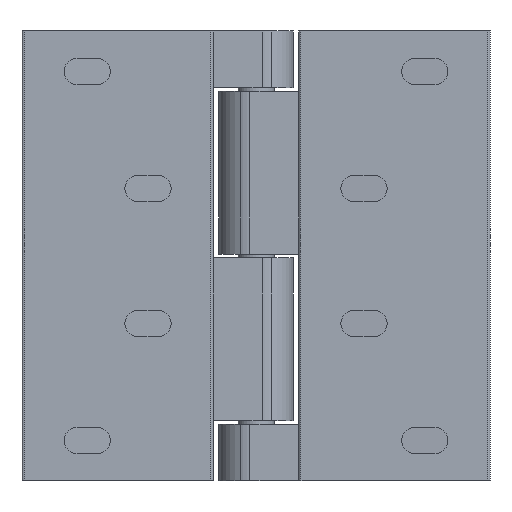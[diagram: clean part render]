
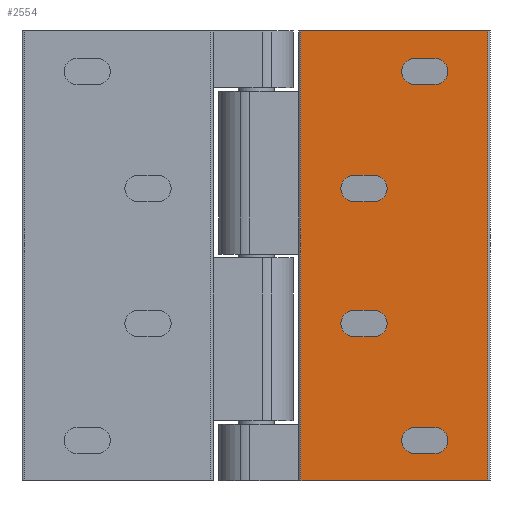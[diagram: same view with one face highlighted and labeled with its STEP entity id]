
A CAD part, front view. The second image highlights one B-rep face of the part: STEP entity #2554.
In plain terms, the highlighted planar face has unit normal (0, -1, 0).
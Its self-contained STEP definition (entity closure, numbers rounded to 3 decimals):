
#155=LINE('',#4096,#409);
#183=LINE('',#4191,#437);
#184=LINE('',#4195,#438);
#185=LINE('',#4200,#439);
#186=LINE('',#4203,#440);
#187=LINE('',#4208,#441);
#188=LINE('',#4211,#442);
#189=LINE('',#4216,#443);
#190=LINE('',#4219,#444);
#191=LINE('',#4224,#445);
#192=LINE('',#4227,#446);
#193=LINE('',#4229,#447);
#409=VECTOR('',#3291,1000.);
#437=VECTOR('',#3383,1000.);
#438=VECTOR('',#3388,1000.);
#439=VECTOR('',#3391,1000.);
#440=VECTOR('',#3394,1000.);
#441=VECTOR('',#3397,1000.);
#442=VECTOR('',#3400,1000.);
#443=VECTOR('',#3403,1000.);
#444=VECTOR('',#3406,1000.);
#445=VECTOR('',#3409,1000.);
#446=VECTOR('',#3412,1000.);
#447=VECTOR('',#3413,1000.);
#602=PLANE('',#2816);
#995=ORIENTED_EDGE('',*,*,#1620,.F.);
#996=ORIENTED_EDGE('',*,*,#1621,.F.);
#997=ORIENTED_EDGE('',*,*,#1622,.F.);
#998=ORIENTED_EDGE('',*,*,#1623,.F.);
#999=ORIENTED_EDGE('',*,*,#1624,.F.);
#1000=ORIENTED_EDGE('',*,*,#1625,.F.);
#1001=ORIENTED_EDGE('',*,*,#1626,.F.);
#1002=ORIENTED_EDGE('',*,*,#1627,.F.);
#1003=ORIENTED_EDGE('',*,*,#1628,.F.);
#1004=ORIENTED_EDGE('',*,*,#1629,.F.);
#1005=ORIENTED_EDGE('',*,*,#1630,.F.);
#1006=ORIENTED_EDGE('',*,*,#1631,.F.);
#1007=ORIENTED_EDGE('',*,*,#1632,.F.);
#1008=ORIENTED_EDGE('',*,*,#1633,.F.);
#1009=ORIENTED_EDGE('',*,*,#1634,.F.);
#1010=ORIENTED_EDGE('',*,*,#1635,.F.);
#1011=ORIENTED_EDGE('',*,*,#1570,.T.);
#1012=ORIENTED_EDGE('',*,*,#1636,.F.);
#1013=ORIENTED_EDGE('',*,*,#1637,.F.);
#1014=ORIENTED_EDGE('',*,*,#1618,.T.);
#1570=EDGE_CURVE('',#1902,#1901,#155,.T.);
#1618=EDGE_CURVE('',#1937,#1902,#183,.T.);
#1620=EDGE_CURVE('',#1938,#1939,#184,.T.);
#1621=EDGE_CURVE('',#1940,#1938,#2070,.F.);
#1622=EDGE_CURVE('',#1941,#1940,#185,.T.);
#1623=EDGE_CURVE('',#1939,#1941,#2071,.F.);
#1624=EDGE_CURVE('',#1942,#1943,#186,.T.);
#1625=EDGE_CURVE('',#1944,#1942,#2072,.F.);
#1626=EDGE_CURVE('',#1945,#1944,#187,.T.);
#1627=EDGE_CURVE('',#1943,#1945,#2073,.F.);
#1628=EDGE_CURVE('',#1946,#1947,#188,.T.);
#1629=EDGE_CURVE('',#1948,#1946,#2074,.F.);
#1630=EDGE_CURVE('',#1949,#1948,#189,.T.);
#1631=EDGE_CURVE('',#1947,#1949,#2075,.F.);
#1632=EDGE_CURVE('',#1950,#1951,#190,.T.);
#1633=EDGE_CURVE('',#1952,#1950,#2076,.F.);
#1634=EDGE_CURVE('',#1953,#1952,#191,.T.);
#1635=EDGE_CURVE('',#1951,#1953,#2077,.F.);
#1636=EDGE_CURVE('',#1954,#1901,#192,.T.);
#1637=EDGE_CURVE('',#1937,#1954,#193,.T.);
#1901=VERTEX_POINT('',#4095);
#1902=VERTEX_POINT('',#4097);
#1937=VERTEX_POINT('',#4192);
#1938=VERTEX_POINT('',#4196);
#1939=VERTEX_POINT('',#4197);
#1940=VERTEX_POINT('',#4199);
#1941=VERTEX_POINT('',#4201);
#1942=VERTEX_POINT('',#4204);
#1943=VERTEX_POINT('',#4205);
#1944=VERTEX_POINT('',#4207);
#1945=VERTEX_POINT('',#4209);
#1946=VERTEX_POINT('',#4212);
#1947=VERTEX_POINT('',#4213);
#1948=VERTEX_POINT('',#4215);
#1949=VERTEX_POINT('',#4217);
#1950=VERTEX_POINT('',#4220);
#1951=VERTEX_POINT('',#4221);
#1952=VERTEX_POINT('',#4223);
#1953=VERTEX_POINT('',#4225);
#1954=VERTEX_POINT('',#4228);
#2070=CIRCLE('',#2817,2.9);
#2071=CIRCLE('',#2818,2.9);
#2072=CIRCLE('',#2819,2.9);
#2073=CIRCLE('',#2820,2.9);
#2074=CIRCLE('',#2821,2.9);
#2075=CIRCLE('',#2822,2.9);
#2076=CIRCLE('',#2823,2.9);
#2077=CIRCLE('',#2824,2.9);
#2181=EDGE_LOOP('',(#995,#996,#997,#998));
#2182=EDGE_LOOP('',(#999,#1000,#1001,#1002));
#2183=EDGE_LOOP('',(#1003,#1004,#1005,#1006));
#2184=EDGE_LOOP('',(#1007,#1008,#1009,#1010));
#2185=EDGE_LOOP('',(#1011,#1012,#1013,#1014));
#2347=FACE_BOUND('',#2181,.T.);
#2348=FACE_BOUND('',#2182,.T.);
#2349=FACE_BOUND('',#2183,.T.);
#2350=FACE_BOUND('',#2184,.T.);
#2351=FACE_BOUND('',#2185,.T.);
#2554=ADVANCED_FACE('',(#2347,#2348,#2349,#2350,#2351),#602,.F.);
#2816=AXIS2_PLACEMENT_3D('',#4194,#3386,#3387);
#2817=AXIS2_PLACEMENT_3D('',#4198,#3389,#3390);
#2818=AXIS2_PLACEMENT_3D('',#4202,#3392,#3393);
#2819=AXIS2_PLACEMENT_3D('',#4206,#3395,#3396);
#2820=AXIS2_PLACEMENT_3D('',#4210,#3398,#3399);
#2821=AXIS2_PLACEMENT_3D('',#4214,#3401,#3402);
#2822=AXIS2_PLACEMENT_3D('',#4218,#3404,#3405);
#2823=AXIS2_PLACEMENT_3D('',#4222,#3407,#3408);
#2824=AXIS2_PLACEMENT_3D('',#4226,#3410,#3411);
#3291=DIRECTION('',(1.,0.,0.));
#3383=DIRECTION('',(0.,0.,-1.));
#3386=DIRECTION('',(0.,1.,0.));
#3387=DIRECTION('',(0.,0.,1.));
#3388=DIRECTION('',(1.,0.,0.));
#3389=DIRECTION('',(0.,1.,0.));
#3390=DIRECTION('',(0.,0.,1.));
#3391=DIRECTION('',(-1.,0.,0.));
#3392=DIRECTION('',(0.,1.,0.));
#3393=DIRECTION('',(0.,0.,1.));
#3394=DIRECTION('',(1.,0.,0.));
#3395=DIRECTION('',(0.,1.,0.));
#3396=DIRECTION('',(0.,0.,1.));
#3397=DIRECTION('',(-1.,0.,0.));
#3398=DIRECTION('',(0.,1.,0.));
#3399=DIRECTION('',(0.,0.,1.));
#3400=DIRECTION('',(1.,0.,0.));
#3401=DIRECTION('',(0.,1.,0.));
#3402=DIRECTION('',(0.,0.,1.));
#3403=DIRECTION('',(-1.,0.,0.));
#3404=DIRECTION('',(0.,1.,0.));
#3405=DIRECTION('',(0.,0.,1.));
#3406=DIRECTION('',(1.,0.,0.));
#3407=DIRECTION('',(0.,1.,0.));
#3408=DIRECTION('',(0.,0.,1.));
#3409=DIRECTION('',(-1.,0.,0.));
#3410=DIRECTION('',(0.,1.,0.));
#3411=DIRECTION('',(0.,0.,1.));
#3412=DIRECTION('',(0.,0.,-1.));
#3413=DIRECTION('',(1.,0.,0.));
#4095=CARTESIAN_POINT('',(-10.,-9.,-50.));
#4096=CARTESIAN_POINT('',(-51.5,-9.,-50.));
#4097=CARTESIAN_POINT('',(-51.5,-9.,-50.));
#4191=CARTESIAN_POINT('',(-51.5,-9.,50.));
#4192=CARTESIAN_POINT('',(-51.5,-9.,50.));
#4194=CARTESIAN_POINT('',(-51.5,-9.,50.));
#4195=CARTESIAN_POINT('',(-51.5,-9.,-43.9));
#4196=CARTESIAN_POINT('',(-39.75,-9.,-43.9));
#4197=CARTESIAN_POINT('',(-35.25,-9.,-43.9));
#4198=CARTESIAN_POINT('',(-39.75,-9.,-41.));
#4199=CARTESIAN_POINT('',(-39.75,-9.,-38.1));
#4200=CARTESIAN_POINT('',(-51.5,-9.,-38.1));
#4201=CARTESIAN_POINT('',(-35.25,-9.,-38.1));
#4202=CARTESIAN_POINT('',(-35.25,-9.,-41.));
#4203=CARTESIAN_POINT('',(-51.5,-9.,38.1));
#4204=CARTESIAN_POINT('',(-39.75,-9.,38.1));
#4205=CARTESIAN_POINT('',(-35.25,-9.,38.1));
#4206=CARTESIAN_POINT('',(-39.75,-9.,41.));
#4207=CARTESIAN_POINT('',(-39.75,-9.,43.9));
#4208=CARTESIAN_POINT('',(-51.5,-9.,43.9));
#4209=CARTESIAN_POINT('',(-35.25,-9.,43.9));
#4210=CARTESIAN_POINT('',(-35.25,-9.,41.));
#4211=CARTESIAN_POINT('',(-51.5,-9.,-17.9));
#4212=CARTESIAN_POINT('',(-26.25,-9.,-17.9));
#4213=CARTESIAN_POINT('',(-21.75,-9.,-17.9));
#4214=CARTESIAN_POINT('',(-26.25,-9.,-15.));
#4215=CARTESIAN_POINT('',(-26.25,-9.,-12.1));
#4216=CARTESIAN_POINT('',(-51.5,-9.,-12.1));
#4217=CARTESIAN_POINT('',(-21.75,-9.,-12.1));
#4218=CARTESIAN_POINT('',(-21.75,-9.,-15.));
#4219=CARTESIAN_POINT('',(-51.5,-9.,12.1));
#4220=CARTESIAN_POINT('',(-26.25,-9.,12.1));
#4221=CARTESIAN_POINT('',(-21.75,-9.,12.1));
#4222=CARTESIAN_POINT('',(-26.25,-9.,15.));
#4223=CARTESIAN_POINT('',(-26.25,-9.,17.9));
#4224=CARTESIAN_POINT('',(-51.5,-9.,17.9));
#4225=CARTESIAN_POINT('',(-21.75,-9.,17.9));
#4226=CARTESIAN_POINT('',(-21.75,-9.,15.));
#4227=CARTESIAN_POINT('',(-10.,-9.,50.));
#4228=CARTESIAN_POINT('',(-10.,-9.,50.));
#4229=CARTESIAN_POINT('',(-51.5,-9.,50.));
